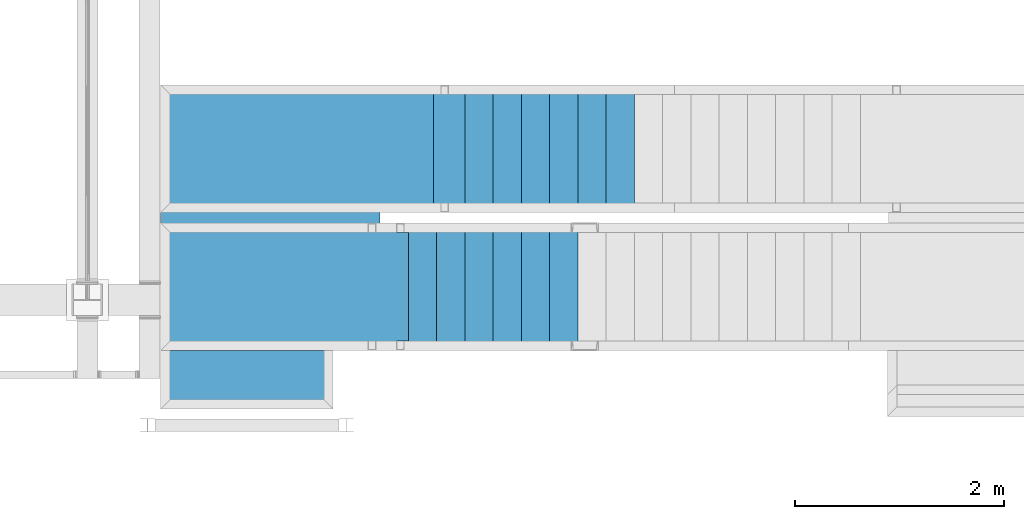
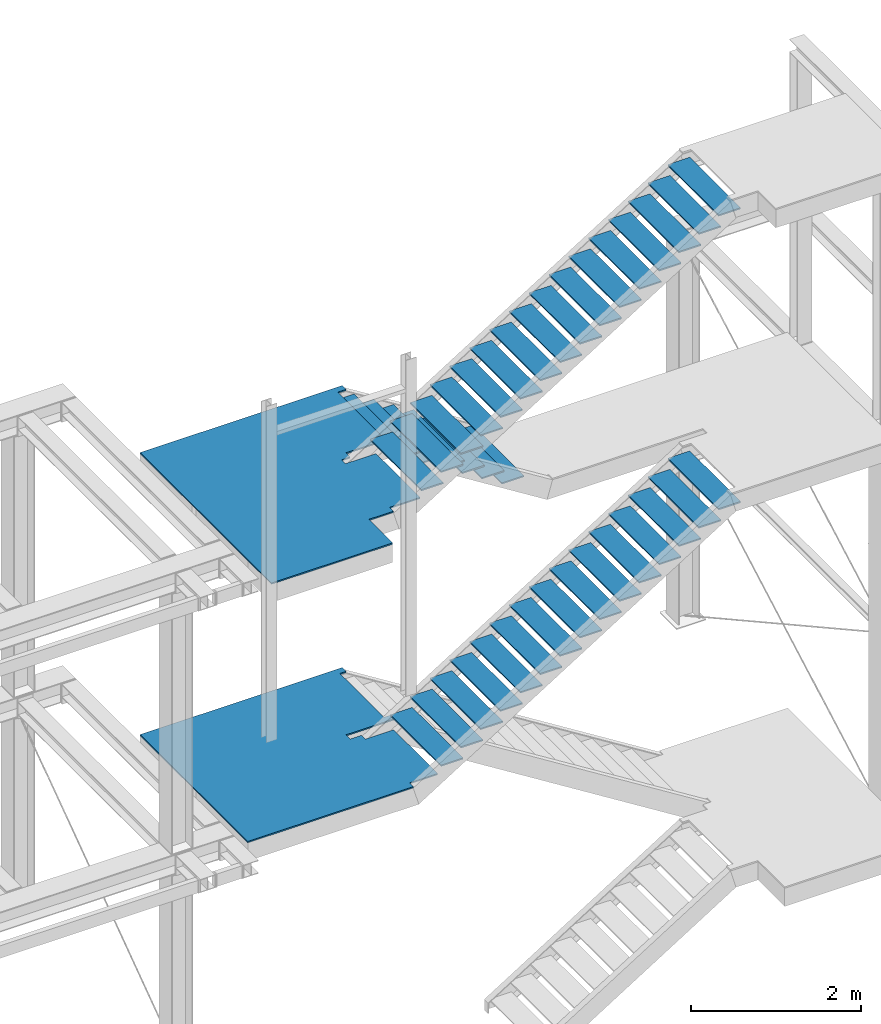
# One storey, part 22 of 24: 5 stairs.
"""IFC2X3 building model written with IfcOpenShell, lengths in metres."""

import ifcopenshell
import ifcopenshell.guid

model = None  # the IFC model being written
_history = None  # IfcOwnerHistory: only IFC2X3 demands one
_inside = {}  # id of a spatial element -> (the spatial element, [elements in it])
_under = {}  # id of a project, library or spatial element -> (it, [spatial elements below it])
_declared = {}  # id of a project -> (the project, [libraries it declares])
_typed = {}  # id of a type object -> (the type object, [elements of that type])
_made_of = {}  # id of a material, layer set ... -> (it, [elements and type objects made of it])


def new_model(schema):
    """Start an empty IFC model of exactly this schema.

    Asked for "IFC4X3", IfcOpenShell would pick the latest addendum, in which some entities
    have other attributes; the version numbers below select the first issue.
    IFC2X3 requires an IfcOwnerHistory on every rooted entity: one is made here for all.
    """
    global model, _history
    if schema == "IFC4X3":
        model = ifcopenshell.file(schema_version=(4, 3, 0, 0))
    else:
        model = ifcopenshell.file(schema=schema)
    _inside.clear()
    _under.clear()
    _declared.clear()
    _typed.clear()
    _made_of.clear()
    _history = None
    if model.schema == "IFC2X3":
        org = make("IfcOrganization", Name="unknown")
        user = make(
            "IfcPersonAndOrganization",
            ThePerson=make("IfcPerson", FamilyName="unknown"),
            TheOrganization=org,
        )
        app = make(
            "IfcApplication",
            ApplicationDeveloper=org,
            Version="unknown",
            ApplicationFullName="unknown",
            ApplicationIdentifier="unknown",
        )
        _history = make(
            "IfcOwnerHistory",
            OwningUser=user,
            OwningApplication=app,
            ChangeAction="ADDED",
            CreationDate=0,
        )
    return model


def make(cls, **values):
    """One entity of the class cls with the attributes given. An attribute that is None is left unset."""
    return model.create_entity(
        cls, **{name: value for name, value in values.items() if value is not None}
    )


def entity(cls, *values):
    """Any entity or typed value of the class cls, its attributes in the order of the schema. None: left unset."""
    e = model.create_entity(cls)
    for i, value in enumerate(values):
        if value is not None:
            e[i] = value
    return e


def rooted(cls, **values):
    """An entity with a GlobalId (a new one), such as an element, a storey or a relation."""
    return make(cls, GlobalId=ifcopenshell.guid.new(), OwnerHistory=_history, **values)


def si_unit(unit_type, name, prefix=None):
    """IfcSIUnit, for example si_unit("LENGTHUNIT", "METRE", prefix="MILLI")."""
    return make("IfcSIUnit", UnitType=unit_type, Prefix=prefix, Name=name)


def converted_unit(unit_type, name, factor, base, dimensions=None, offset=None):
    """IfcConversionBasedUnit, such as the inch: factor (a typed value) times the base unit."""
    return make(
        "IfcConversionBasedUnit"
        if offset is None
        else "IfcConversionBasedUnitWithOffset",
        ConversionOffset=offset,
        Dimensions=None
        if dimensions is None
        else entity("IfcDimensionalExponents", *dimensions),
        UnitType=unit_type,
        Name=name,
        ConversionFactor=make(
            "IfcMeasureWithUnit", ValueComponent=factor, UnitComponent=base
        ),
    )


def derived_unit(unit_type, elements):
    """IfcDerivedUnit: a product of units, each with its exponent."""
    return make(
        "IfcDerivedUnit",
        Elements=[
            make("IfcDerivedUnitElement", Unit=unit, Exponent=power)
            for unit, power in elements
        ],
        UnitType=unit_type,
    )


def assignment(units):
    """IfcUnitAssignment: the units of a project."""
    return None if units is None else make("IfcUnitAssignment", Units=units)


def point(xyz):
    """IfcCartesianPoint."""
    return None if xyz is None else make("IfcCartesianPoint", Coordinates=xyz)


def direction(xyz):
    """IfcDirection."""
    return None if xyz is None else make("IfcDirection", DirectionRatios=xyz)


def frame(location, z_axis=None, x_axis=None):
    """IfcAxis2Placement3D, a coordinate frame: its origin and axes. An axis left out is left unset."""
    return make(
        "IfcAxis2Placement3D",
        Location=point(location),
        Axis=direction(z_axis),
        RefDirection=direction(x_axis),
    )


def origin():
    """The frame at (0, 0, 0) with its axes left unset."""
    return frame((0.0, 0.0, 0.0))


def place(relative_to, where):
    """IfcLocalPlacement: puts the frame where relative to a parent placement (None: the world)."""
    return make(
        "IfcLocalPlacement", PlacementRelTo=relative_to, RelativePlacement=where
    )


def context(
    kind, dimensions, precision=None, world=None, true_north=None, identifier=None
):
    """IfcGeometricRepresentationContext, for example the 3D "Model" context."""
    return make(
        "IfcGeometricRepresentationContext",
        ContextIdentifier=identifier,
        ContextType=kind,
        CoordinateSpaceDimension=dimensions,
        Precision=precision,
        WorldCoordinateSystem=world,
        TrueNorth=true_north,
    )


def subcontext(parent, identifier, kind, view, scale=None):
    """IfcGeometricRepresentationSubContext, for example "Body" below "Model"."""
    return make(
        "IfcGeometricRepresentationSubContext",
        ContextIdentifier=identifier,
        ContextType=kind,
        ParentContext=parent,
        TargetScale=scale,
        TargetView=view,
    )


def project(units=None, contexts=None):
    """IfcProject with its units and contexts."""
    return rooted(
        "IfcProject",
        Name="project",
        RepresentationContexts=contexts,
        UnitsInContext=assignment(units),
    )


def spatial(cls, under=None, at=None, **own):
    """A site, building, storey or space (cls), placed at a placement, below another one or the project."""
    s = rooted(cls, ObjectPlacement=at, **own)
    if under is not None:
        _under.setdefault(under.id(), (under, []))[1].append(s)
    return s


def faces_of(points, faces, orient=None, outer=None):
    """IfcFace entities. A face is a list of loops; a loop is a list of indices into points, from 0.

    orient and outer hold one flag for each loop. By default every Orientation is true, the
    first loop of a face is its IfcFaceOuterBound and the others are IfcFaceBound.
    """
    made = []
    for i, loops in enumerate(faces):
        bounds = []
        for j, loop in enumerate(loops):
            is_outer = j == 0 if outer is None else outer[i][j]
            bounds.append(
                make(
                    "IfcFaceOuterBound" if is_outer else "IfcFaceBound",
                    Bound=make("IfcPolyLoop", Polygon=[points[k] for k in loop]),
                    Orientation=True if orient is None else orient[i][j],
                )
            )
        made.append(make("IfcFace", Bounds=bounds))
    return made


def faceted_brep(points, faces, orient=None, outer=None, voids=None):
    """IfcFacetedBrep: a solid bounded by flat faces; with voids (closed shells), ...WithVoids."""
    shared = [point(p) for p in points]
    hull = make("IfcClosedShell", CfsFaces=faces_of(shared, faces, orient, outer))
    if voids is None:
        return make("IfcFacetedBrep", Outer=hull)
    return make(
        "IfcFacetedBrepWithVoids",
        Outer=hull,
        Voids=[
            make(cls, CfsFaces=faces_of(shared, fs, o, b)) for cls, fs, o, b in voids
        ],
    )


def shape(context_of_items, identifier, shape_type, items):
    """IfcShapeRepresentation: the items that make up one representation, for example the "Body"."""
    return make(
        "IfcShapeRepresentation",
        ContextOfItems=context_of_items,
        RepresentationIdentifier=identifier,
        RepresentationType=shape_type,
        Items=items,
    )


def material(Name=None, Category=None):
    """IfcMaterial."""
    return make("IfcMaterial", Name=Name, Category=Category)


def made_of(thing, what):
    """Note that an element or type object is made of a material, layer set ...; save() writes the relation."""
    if what is not None:
        _made_of.setdefault(what.id(), (what, []))[1].append(thing)
    return thing


def element(
    cls,
    number,
    at=None,
    inside=None,
    cuts=None,
    type_object=None,
    material=None,
    context=None,
    identifier="Body",
    shape_type=None,
    held_by="IfcProductDefinitionShape",
    body=None,
    shapes=None,
    **own,
):
    """One element of the class cls, such as IfcWall. Its Tag is "e" and its number.

    at: its placement. inside: the storey or other place that contains it. cuts: it is an
    opening in that element (IfcRelVoidsElement). A single representation is given by context,
    identifier, shape_type and body (its items); several are given by shapes. held_by: the class
    of the entity that holds the representations. save() writes the other relations.
    """
    e = rooted(cls, Tag="e%d" % number, ObjectPlacement=at, **own)
    if body is not None:
        shapes = [shape(context, identifier, shape_type, body)]
    if shapes is not None:
        e.Representation = make(held_by, Representations=shapes)
    if inside is not None:
        _inside.setdefault(inside.id(), (inside, []))[1].append(e)
    if cuts is not None:
        rooted(
            "IfcRelVoidsElement", RelatingBuildingElement=cuts, RelatedOpeningElement=e
        )
    if type_object is not None:
        _typed.setdefault(type_object.id(), (type_object, []))[1].append(e)
    return made_of(e, material)


def aggregate(whole, parts):
    """IfcRelAggregates: a whole, such as a stair, and the parts it consists of."""
    return rooted("IfcRelAggregates", RelatingObject=whole, RelatedObjects=parts)


def save(model, path):
    """Write the relations noted so far, then the file.

    IfcRelAggregates (storeys below a building ...), IfcRelContainedInSpatialStructure (elements
    in a storey), IfcRelDefinesByType, IfcRelAssociatesMaterial and IfcRelDeclares: one each for
    every whole, place, type object, material and project.
    """
    for whole, parts in _under.values():
        aggregate(whole, parts)
    for where, things in _inside.values():
        rooted(
            "IfcRelContainedInSpatialStructure",
            RelatedElements=things,
            RelatingStructure=where,
        )
    for kind, things in _typed.values():
        rooted("IfcRelDefinesByType", RelatedObjects=things, RelatingType=kind)
    for what, things in _made_of.values():
        rooted("IfcRelAssociatesMaterial", RelatedObjects=things, RelatingMaterial=what)
    for by, libraries in _declared.values():
        rooted("IfcRelDeclares", RelatingContext=by, RelatedDefinitions=libraries)
    model.write(path)


model = new_model("IFC2X3")

# Units and contexts
model_context = context("Model", 3, precision=1e-05, world=origin())
body_context = subcontext(model_context, "Body", "Model", "MODEL_VIEW")
ifc_project = project(units=[si_unit("LENGTHUNIT", "METRE"), si_unit("AREAUNIT", "SQUARE_METRE"), si_unit("VOLUMEUNIT", "CUBIC_METRE"), si_unit("MASSUNIT", "GRAM", prefix="KILO"), converted_unit("PLANEANGLEUNIT", "DEGREE", entity("IfcPlaneAngleMeasure", 0.0174532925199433), si_unit("PLANEANGLEUNIT", "RADIAN"), dimensions=[0, 0, 0, 0, 0, 0, 0]), derived_unit("THERMALTRANSMITTANCEUNIT", [(si_unit("POWERUNIT", "WATT"), 1), (si_unit("THERMODYNAMICTEMPERATUREUNIT", "KELVIN"), -1), (si_unit("LENGTHUNIT", "METRE"), -2)]), derived_unit("VOLUMETRICFLOWRATEUNIT", [(si_unit("LENGTHUNIT", "METRE"), 3), (converted_unit("TIMEUNIT", "hour", entity("IfcTimeMeasure", 3600.0), si_unit("TIMEUNIT", "SECOND"), dimensions=[0, 0, 1, 0, 0, 0, 0]), -1), (si_unit("LENGTHUNIT", "METRE"), -1)])], contexts=[model_context])

# Site, building, storey
site_placement = place(None, origin())
site = spatial("IfcSite", under=ifc_project, at=site_placement, Name="TWP_Speiseverteilzentrum SBW VZ II", CompositionType="ELEMENT")
building_placement = place(site_placement, origin())
building = spatial("IfcBuilding", under=site, at=building_placement, Name="Speiseverteilzentrum SBW VZ II", CompositionType="ELEMENT")
storey_placement = place(building_placement, frame((0.0, 0.0, 0.6957)))
storey = spatial("IfcBuildingStorey", under=building, at=storey_placement, Name="EG_Technik_FFB", CompositionType="ELEMENT", Elevation=0.6957)

# Stairs
ifc_material_1 = material(Name="Stahl")
stair_1_placement = place(storey_placement, frame((60.7000017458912, 86.9899999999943, 3.71816338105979)))
element("IfcStair", 1, at=stair_1_placement, inside=storey, material=ifc_material_1, Name="Stahltreppe", ShapeType="NOTDEFINED", context=body_context, shape_type="Brep", body=[
    faceted_brep([(2.66870319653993, 2.44999999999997, 0.0), (2.75301749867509, 2.44999999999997, 0.0), (2.75301749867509, 2.53999999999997, 0.0), (0.0, 2.53999999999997, 0.0), (0.0, 0.0, 0.0), (2.25438889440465, 0.0, 0.0), (2.25438889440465, 0.0899999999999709, 0.0), (2.63870319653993, 0.0899999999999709, 0.0), (2.63870319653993, 1.12999999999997, 0.0), (2.25438889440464, 1.12999999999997, 0.0), (2.25438889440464, 1.21999999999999, 0.0), (2.09870319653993, 1.21999999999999, 0.0), (2.09870319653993, 1.31999999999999, 0.0), (2.75301749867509, 1.31999999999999, 0.0), (2.75301749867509, 1.40999999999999, 0.0), (2.66870319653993, 1.40999999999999, 0.0), (2.75301749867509, 2.44999999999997, 0.02), (2.66870319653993, 2.44999999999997, 0.02), (2.66870319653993, 1.40999999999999, 0.02), (2.75301749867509, 1.40999999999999, 0.02), (2.75301749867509, 1.31999999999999, 0.02), (2.09870319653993, 1.31999999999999, 0.02), (2.09870319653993, 1.21999999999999, 0.02), (2.25438889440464, 1.21999999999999, 0.02), (2.25438889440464, 1.12999999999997, 0.02), (2.63870319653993, 1.12999999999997, 0.02), (2.63870319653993, 0.0899999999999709, 0.02), (2.25438889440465, 0.0899999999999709, 0.02), (2.25438889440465, 0.0, 0.02), (0.0, 0.0, 0.02), (0.0, 2.53999999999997, 0.02), (2.75301749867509, 2.53999999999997, 0.02)], [[[0, 1, 2, 3, 4, 5, 6, 7, 8, 9, 10, 11, 12, 13, 14, 15]], [[16, 17, 18, 19, 20, 21, 22, 23, 24, 25, 26, 27, 28, 29, 30, 31]], [[1, 0, 17, 16]], [[2, 1, 16, 31]], [[3, 2, 31, 30]], [[4, 3, 30, 29]], [[5, 4, 29, 28]], [[6, 5, 28, 27]], [[7, 6, 27, 26]], [[8, 7, 26, 25]], [[9, 8, 25, 24]], [[10, 9, 24, 23]], [[11, 10, 23, 22]], [[12, 11, 22, 21]], [[13, 12, 21, 20]], [[14, 13, 20, 19]], [[15, 14, 19, 18]], [[0, 15, 18, 17]]], orient=[[False], [False], [False], [False], [False], [False], [False], [False], [False], [False], [False], [False], [False], [False], [False], [False], [False], [False]]),
])
ifc_material_2 = material(Name="Stahl")
stair_2_placement = place(storey_placement, frame((63.3087049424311, 88.3199999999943, 6.59442514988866)))
element("IfcStair", 2, at=stair_2_placement, inside=storey, material=ifc_material_2, Name="Stahltreppe", ShapeType="NOTDEFINED", context=body_context, shape_type="Brep", body=[
    faceted_brep([(0.0, 0.0, 1.01515121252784), (0.0, 1.2, 1.01515121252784), (0.0, 1.2, 1.03515121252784), (0.0, 0.0, 1.03515121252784), (0.300000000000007, 1.2, 1.01515121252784), (0.300000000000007, 1.2, 1.03515121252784), (0.300000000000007, 0.0, 1.01515121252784), (0.300000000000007, 0.0, 1.03515121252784)], [[[0, 1, 2, 3]], [[1, 4, 5, 2]], [[4, 6, 7, 5]], [[6, 0, 3, 7]], [[3, 2, 5, 7]], [[0, 6, 4, 1]]], orient=[[False], [False], [False], [False], [False], [False]]),
    faceted_brep([(0.27, 0.0, 0.845959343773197), (0.27, 1.2, 0.845959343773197), (0.27, 1.2, 0.865959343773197), (0.27, 0.0, 0.865959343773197), (0.57, 1.2, 0.845959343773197), (0.57, 1.2, 0.865959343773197), (0.57, 0.0, 0.845959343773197), (0.57, 0.0, 0.865959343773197)], [[[0, 1, 2, 3]], [[1, 4, 5, 2]], [[4, 6, 7, 5]], [[6, 0, 3, 7]], [[3, 2, 5, 7]], [[0, 6, 4, 1]]], orient=[[False], [False], [False], [False], [False], [False]]),
    faceted_brep([(0.539999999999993, 0.0, 0.676767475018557), (0.539999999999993, 1.2, 0.676767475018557), (0.539999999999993, 1.2, 0.696767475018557), (0.539999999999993, 0.0, 0.696767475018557), (0.839999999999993, 1.2, 0.676767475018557), (0.839999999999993, 1.2, 0.696767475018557), (0.839999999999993, 0.0, 0.676767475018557), (0.839999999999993, 0.0, 0.696767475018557)], [[[0, 1, 2, 3]], [[1, 4, 5, 2]], [[4, 6, 7, 5]], [[6, 0, 3, 7]], [[3, 2, 5, 7]], [[0, 6, 4, 1]]], orient=[[False], [False], [False], [False], [False], [False]]),
    faceted_brep([(0.809999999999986, 0.0, 0.507575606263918), (0.809999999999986, 1.2, 0.507575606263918), (0.809999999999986, 1.2, 0.527575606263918), (0.809999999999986, 0.0, 0.527575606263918), (1.10999999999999, 1.2, 0.507575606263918), (1.10999999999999, 1.2, 0.527575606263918), (1.10999999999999, 0.0, 0.507575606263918), (1.10999999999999, 0.0, 0.527575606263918)], [[[0, 1, 2, 3]], [[1, 4, 5, 2]], [[4, 6, 7, 5]], [[6, 0, 3, 7]], [[3, 2, 5, 7]], [[0, 6, 4, 1]]], orient=[[False], [False], [False], [False], [False], [False]]),
    faceted_brep([(1.08, 0.0, 0.33838373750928), (1.08, 1.2, 0.33838373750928), (1.08, 1.2, 0.35838373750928), (1.08, 0.0, 0.35838373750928), (1.38, 1.2, 0.33838373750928), (1.38, 1.2, 0.35838373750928), (1.38, 0.0, 0.33838373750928), (1.38, 0.0, 0.35838373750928)], [[[0, 1, 2, 3]], [[1, 4, 5, 2]], [[4, 6, 7, 5]], [[6, 0, 3, 7]], [[3, 2, 5, 7]], [[0, 6, 4, 1]]], orient=[[False], [False], [False], [False], [False], [False]]),
    faceted_brep([(1.34999999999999, 0.0, 0.169191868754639), (1.34999999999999, 1.2, 0.169191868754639), (1.34999999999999, 1.2, 0.189191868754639), (1.34999999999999, 0.0, 0.189191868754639), (1.64999999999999, 1.2, 0.169191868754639), (1.64999999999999, 1.2, 0.189191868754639), (1.64999999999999, 0.0, 0.169191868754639), (1.64999999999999, 0.0, 0.189191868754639)], [[[0, 1, 2, 3]], [[1, 4, 5, 2]], [[4, 6, 7, 5]], [[6, 0, 3, 7]], [[3, 2, 5, 7]], [[0, 6, 4, 1]]], orient=[[False], [False], [False], [False], [False], [False]]),
    faceted_brep([(1.61999999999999, 0.0, 0.0), (1.61999999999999, 1.2, 0.0), (1.61999999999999, 1.2, 0.02), (1.61999999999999, 0.0, 0.02), (1.91999999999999, 1.2, 0.0), (1.91999999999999, 1.2, 0.02), (1.91999999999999, 0.0, 0.0), (1.91999999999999, 0.0, 0.02)], [[[0, 1, 2, 3]], [[1, 4, 5, 2]], [[4, 6, 7, 5]], [[6, 0, 3, 7]], [[3, 2, 5, 7]], [[0, 6, 4, 1]]], orient=[[False], [False], [False], [False], [False], [False]]),
])
ifc_material_3 = material(Name="Stahl")
stair_3_placement = place(storey_placement, frame((60.7000017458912, 86.4299999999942, 7.77876823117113)))
element("IfcStair", 3, at=stair_3_placement, inside=storey, material=ifc_material_3, Name="Stahltreppe", ShapeType="NOTDEFINED", context=body_context, shape_type="Brep", body=[
    faceted_brep([(1.98438730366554, 0.560000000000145, 0.0), (1.98438730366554, 0.650000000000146, 0.0), (2.39870319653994, 0.650000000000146, 0.0), (2.39870319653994, 1.69000000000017, 0.0), (1.98438730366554, 1.69000000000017, 0.0), (1.98438730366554, 1.78000000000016, 0.0), (2.09870319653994, 1.78000000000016, 0.0), (2.09870319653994, 1.88000000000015, 0.0), (2.75301908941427, 1.88000000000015, 0.0), (2.75301908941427, 1.97000000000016, 0.0), (2.63870319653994, 1.97000000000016, 0.0), (2.63870319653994, 3.01000184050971, 0.0), (2.75301908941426, 3.01000184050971, 0.0), (2.75301908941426, 3.10000000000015, 0.0), (0.0, 3.10000000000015, 0.0), (0.0, 0.0, 0.0), (1.64999999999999, 0.0, 0.0), (1.64999999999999, 0.560000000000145, 0.0), (1.98438730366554, 0.650000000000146, 0.02), (1.98438730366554, 0.560000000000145, 0.02), (1.64999999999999, 0.560000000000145, 0.02), (1.64999999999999, 0.0, 0.02), (0.0, 0.0, 0.02), (0.0, 3.10000000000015, 0.02), (2.75301908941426, 3.10000000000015, 0.02), (2.75301908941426, 3.01000184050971, 0.02), (2.63870319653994, 3.01000184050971, 0.02), (2.63870319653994, 1.97000000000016, 0.02), (2.75301908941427, 1.97000000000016, 0.02), (2.75301908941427, 1.88000000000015, 0.02), (2.09870319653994, 1.88000000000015, 0.02), (2.09870319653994, 1.78000000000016, 0.02), (1.98438730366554, 1.78000000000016, 0.02), (1.98438730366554, 1.69000000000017, 0.02), (2.39870319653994, 1.69000000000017, 0.02), (2.39870319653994, 0.650000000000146, 0.02)], [[[0, 1, 2, 3, 4, 5, 6, 7, 8, 9, 10, 11, 12, 13, 14, 15, 16, 17]], [[18, 19, 20, 21, 22, 23, 24, 25, 26, 27, 28, 29, 30, 31, 32, 33, 34, 35]], [[1, 0, 19, 18]], [[2, 1, 18, 35]], [[3, 2, 35, 34]], [[4, 3, 34, 33]], [[5, 4, 33, 32]], [[6, 5, 32, 31]], [[7, 6, 31, 30]], [[8, 7, 30, 29]], [[9, 8, 29, 28]], [[10, 9, 28, 27]], [[11, 10, 27, 26]], [[12, 11, 26, 25]], [[13, 12, 25, 24]], [[14, 13, 24, 23]], [[15, 14, 23, 22]], [[16, 15, 22, 21]], [[17, 16, 21, 20]], [[0, 17, 20, 19]]], orient=[[False], [False], [False], [False], [False], [False], [False], [False], [False], [False], [False], [False], [False], [False], [False], [False], [False], [False], [False], [False]]),
])
ifc_material_4 = material(Name="Stahl")
stair_4_placement = place(storey_placement, frame((63.0687049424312, 86.9999999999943, 7.94796009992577)))
element("IfcStair", 4, at=stair_4_placement, inside=storey, material=ifc_material_4, Name="Stahltreppe", ShapeType="NOTDEFINED", context=body_context, shape_type="Brep", body=[
    faceted_brep([(4.35, 1.2, 2.53787803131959), (4.35, 0.0, 2.53787803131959), (4.35, 0.0, 2.55787803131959), (4.35, 1.2, 2.55787803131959), (4.05, 0.0, 2.53787803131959), (4.05, 0.0, 2.55787803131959), (4.05, 1.2, 2.53787803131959), (4.05, 1.2, 2.55787803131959)], [[[0, 1, 2, 3]], [[1, 4, 5, 2]], [[4, 6, 7, 5]], [[6, 0, 3, 7]], [[3, 2, 5, 7]], [[0, 6, 4, 1]]], orient=[[False], [False], [False], [False], [False], [False]]),
    faceted_brep([(4.08, 1.2, 2.36868616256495), (4.08, 0.0, 2.36868616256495), (4.08, 0.0, 2.38868616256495), (4.08, 1.2, 2.38868616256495), (3.78, 0.0, 2.36868616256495), (3.78, 0.0, 2.38868616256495), (3.78, 1.2, 2.36868616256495), (3.78, 1.2, 2.38868616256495)], [[[0, 1, 2, 3]], [[1, 4, 5, 2]], [[4, 6, 7, 5]], [[6, 0, 3, 7]], [[3, 2, 5, 7]], [[0, 6, 4, 1]]], orient=[[False], [False], [False], [False], [False], [False]]),
    faceted_brep([(3.81, 1.2, 2.19949429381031), (3.81, 0.0, 2.19949429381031), (3.81, 0.0, 2.21949429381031), (3.81, 1.2, 2.21949429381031), (3.51, 0.0, 2.19949429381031), (3.51, 0.0, 2.21949429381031), (3.51, 1.2, 2.19949429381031), (3.51, 1.2, 2.21949429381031)], [[[0, 1, 2, 3]], [[1, 4, 5, 2]], [[4, 6, 7, 5]], [[6, 0, 3, 7]], [[3, 2, 5, 7]], [[0, 6, 4, 1]]], orient=[[False], [False], [False], [False], [False], [False]]),
    faceted_brep([(3.53999999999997, 1.2, 2.03030242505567), (3.53999999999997, 0.0, 2.03030242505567), (3.53999999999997, 0.0, 2.05030242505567), (3.53999999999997, 1.2, 2.05030242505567), (3.23999999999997, 0.0, 2.03030242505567), (3.23999999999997, 0.0, 2.05030242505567), (3.23999999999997, 1.2, 2.03030242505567), (3.23999999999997, 1.2, 2.05030242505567)], [[[0, 1, 2, 3]], [[1, 4, 5, 2]], [[4, 6, 7, 5]], [[6, 0, 3, 7]], [[3, 2, 5, 7]], [[0, 6, 4, 1]]], orient=[[False], [False], [False], [False], [False], [False]]),
    faceted_brep([(3.27, 1.2, 1.86111055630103), (3.27, 0.0, 1.86111055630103), (3.27, 0.0, 1.88111055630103), (3.27, 1.2, 1.88111055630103), (2.97, 0.0, 1.86111055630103), (2.97, 0.0, 1.88111055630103), (2.97, 1.2, 1.86111055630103), (2.97, 1.2, 1.88111055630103)], [[[0, 1, 2, 3]], [[1, 4, 5, 2]], [[4, 6, 7, 5]], [[6, 0, 3, 7]], [[3, 2, 5, 7]], [[0, 6, 4, 1]]], orient=[[False], [False], [False], [False], [False], [False]]),
    faceted_brep([(3.0, 1.2, 1.69191868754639), (3.0, 0.0, 1.69191868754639), (3.0, 0.0, 1.71191868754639), (3.0, 1.2, 1.71191868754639), (2.7, 0.0, 1.69191868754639), (2.7, 0.0, 1.71191868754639), (2.7, 1.2, 1.69191868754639), (2.7, 1.2, 1.71191868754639)], [[[0, 1, 2, 3]], [[1, 4, 5, 2]], [[4, 6, 7, 5]], [[6, 0, 3, 7]], [[3, 2, 5, 7]], [[0, 6, 4, 1]]], orient=[[False], [False], [False], [False], [False], [False]]),
    faceted_brep([(2.73, 1.2, 1.52272681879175), (2.73, 0.0, 1.52272681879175), (2.73, 0.0, 1.54272681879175), (2.73, 1.2, 1.54272681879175), (2.42999999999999, 0.0, 1.52272681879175), (2.42999999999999, 0.0, 1.54272681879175), (2.42999999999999, 1.2, 1.52272681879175), (2.42999999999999, 1.2, 1.54272681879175)], [[[0, 1, 2, 3]], [[1, 4, 5, 2]], [[4, 6, 7, 5]], [[6, 0, 3, 7]], [[3, 2, 5, 7]], [[0, 6, 4, 1]]], orient=[[False], [False], [False], [False], [False], [False]]),
    faceted_brep([(2.45999999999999, 1.2, 1.35353495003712), (2.45999999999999, 0.0, 1.35353495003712), (2.45999999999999, 0.0, 1.37353495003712), (2.45999999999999, 1.2, 1.37353495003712), (2.15999999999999, 0.0, 1.35353495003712), (2.15999999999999, 0.0, 1.37353495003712), (2.15999999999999, 1.2, 1.35353495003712), (2.15999999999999, 1.2, 1.37353495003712)], [[[0, 1, 2, 3]], [[1, 4, 5, 2]], [[4, 6, 7, 5]], [[6, 0, 3, 7]], [[3, 2, 5, 7]], [[0, 6, 4, 1]]], orient=[[False], [False], [False], [False], [False], [False]]),
    faceted_brep([(2.19000000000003, 1.2, 1.18434308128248), (2.19000000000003, 0.0, 1.18434308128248), (2.19000000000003, 0.0, 1.20434308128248), (2.19000000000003, 1.2, 1.20434308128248), (1.89000000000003, 0.0, 1.18434308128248), (1.89000000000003, 0.0, 1.20434308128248), (1.89000000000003, 1.2, 1.18434308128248), (1.89000000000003, 1.2, 1.20434308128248)], [[[0, 1, 2, 3]], [[1, 4, 5, 2]], [[4, 6, 7, 5]], [[6, 0, 3, 7]], [[3, 2, 5, 7]], [[0, 6, 4, 1]]], orient=[[False], [False], [False], [False], [False], [False]]),
    faceted_brep([(1.91999999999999, 1.2, 1.01515121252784), (1.91999999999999, 0.0, 1.01515121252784), (1.91999999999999, 0.0, 1.03515121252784), (1.91999999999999, 1.2, 1.03515121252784), (1.61999999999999, 0.0, 1.01515121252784), (1.61999999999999, 0.0, 1.03515121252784), (1.61999999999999, 1.2, 1.01515121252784), (1.61999999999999, 1.2, 1.03515121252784)], [[[0, 1, 2, 3]], [[1, 4, 5, 2]], [[4, 6, 7, 5]], [[6, 0, 3, 7]], [[3, 2, 5, 7]], [[0, 6, 4, 1]]], orient=[[False], [False], [False], [False], [False], [False]]),
    faceted_brep([(1.65, 1.2, 0.845959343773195), (1.65, 0.0, 0.845959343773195), (1.65, 0.0, 0.865959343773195), (1.65, 1.2, 0.865959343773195), (1.35, 0.0, 0.845959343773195), (1.35, 0.0, 0.865959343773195), (1.35, 1.2, 0.845959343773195), (1.35, 1.2, 0.865959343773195)], [[[0, 1, 2, 3]], [[1, 4, 5, 2]], [[4, 6, 7, 5]], [[6, 0, 3, 7]], [[3, 2, 5, 7]], [[0, 6, 4, 1]]], orient=[[False], [False], [False], [False], [False], [False]]),
    faceted_brep([(1.37999999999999, 1.2, 0.676767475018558), (1.37999999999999, 0.0, 0.676767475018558), (1.37999999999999, 0.0, 0.696767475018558), (1.37999999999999, 1.2, 0.696767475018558), (1.07999999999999, 0.0, 0.676767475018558), (1.07999999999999, 0.0, 0.696767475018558), (1.07999999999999, 1.2, 0.676767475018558), (1.07999999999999, 1.2, 0.696767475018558)], [[[0, 1, 2, 3]], [[1, 4, 5, 2]], [[4, 6, 7, 5]], [[6, 0, 3, 7]], [[3, 2, 5, 7]], [[0, 6, 4, 1]]], orient=[[False], [False], [False], [False], [False], [False]]),
    faceted_brep([(1.10999999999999, 1.2, 0.507575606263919), (1.10999999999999, 0.0, 0.507575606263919), (1.10999999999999, 0.0, 0.527575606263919), (1.10999999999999, 1.2, 0.527575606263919), (0.809999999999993, 0.0, 0.507575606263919), (0.809999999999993, 0.0, 0.527575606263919), (0.809999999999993, 1.2, 0.507575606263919), (0.809999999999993, 1.2, 0.527575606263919)], [[[0, 1, 2, 3]], [[1, 4, 5, 2]], [[4, 6, 7, 5]], [[6, 0, 3, 7]], [[3, 2, 5, 7]], [[0, 6, 4, 1]]], orient=[[False], [False], [False], [False], [False], [False]]),
    faceted_brep([(0.839999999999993, 1.2, 0.338383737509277), (0.839999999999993, 0.0, 0.338383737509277), (0.839999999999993, 0.0, 0.358383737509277), (0.839999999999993, 1.2, 0.358383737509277), (0.539999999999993, 0.0, 0.338383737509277), (0.539999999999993, 0.0, 0.358383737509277), (0.539999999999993, 1.2, 0.338383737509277), (0.539999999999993, 1.2, 0.358383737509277)], [[[0, 1, 2, 3]], [[1, 4, 5, 2]], [[4, 6, 7, 5]], [[6, 0, 3, 7]], [[3, 2, 5, 7]], [[0, 6, 4, 1]]], orient=[[False], [False], [False], [False], [False], [False]]),
    faceted_brep([(0.57, 1.2, 0.169191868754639), (0.57, 0.0, 0.169191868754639), (0.57, 0.0, 0.189191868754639), (0.57, 1.2, 0.189191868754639), (0.27, 0.0, 0.169191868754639), (0.27, 0.0, 0.189191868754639), (0.27, 1.2, 0.169191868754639), (0.27, 1.2, 0.189191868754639)], [[[0, 1, 2, 3]], [[1, 4, 5, 2]], [[4, 6, 7, 5]], [[6, 0, 3, 7]], [[3, 2, 5, 7]], [[0, 6, 4, 1]]], orient=[[False], [False], [False], [False], [False], [False]]),
    faceted_brep([(0.299999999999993, 1.2, 0.0), (0.299999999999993, 0.0, 0.0), (0.299999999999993, 0.0, 0.02), (0.299999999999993, 1.2, 0.02), (0.0, 0.0, 0.0), (0.0, 0.0, 0.02), (0.0, 1.2, 0.0), (0.0, 1.2, 0.02)], [[[0, 1, 2, 3]], [[1, 4, 5, 2]], [[4, 6, 7, 5]], [[6, 0, 3, 7]], [[3, 2, 5, 7]], [[0, 6, 4, 1]]], orient=[[False], [False], [False], [False], [False], [False]]),
])
ifc_material_5 = material(Name="Stahl")
stair_5_placement = place(storey_placement, frame((63.3387049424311, 86.9999999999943, 3.88735524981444)))
element("IfcStair", 5, at=stair_5_placement, inside=storey, material=ifc_material_5, Name="Stahltreppe", ShapeType="NOTDEFINED", context=body_context, shape_type="Brep", body=[
    faceted_brep([(4.08000000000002, 1.2, 2.36868616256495), (4.08000000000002, 0.0, 2.36868616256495), (4.08000000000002, 0.0, 2.38868616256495), (4.08000000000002, 1.2, 2.38868616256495), (3.78000000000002, 0.0, 2.36868616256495), (3.78000000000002, 0.0, 2.38868616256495), (3.78000000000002, 1.2, 2.36868616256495), (3.78000000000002, 1.2, 2.38868616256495)], [[[0, 1, 2, 3]], [[1, 4, 5, 2]], [[4, 6, 7, 5]], [[6, 0, 3, 7]], [[3, 2, 5, 7]], [[0, 6, 4, 1]]], orient=[[False], [False], [False], [False], [False], [False]]),
    faceted_brep([(3.81000000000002, 1.2, 2.19949429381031), (3.81000000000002, 0.0, 2.19949429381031), (3.81000000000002, 0.0, 2.21949429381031), (3.81000000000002, 1.2, 2.21949429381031), (3.51000000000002, 0.0, 2.19949429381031), (3.51000000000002, 0.0, 2.21949429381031), (3.51000000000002, 1.2, 2.19949429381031), (3.51000000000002, 1.2, 2.21949429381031)], [[[0, 1, 2, 3]], [[1, 4, 5, 2]], [[4, 6, 7, 5]], [[6, 0, 3, 7]], [[3, 2, 5, 7]], [[0, 6, 4, 1]]], orient=[[False], [False], [False], [False], [False], [False]]),
    faceted_brep([(3.54000000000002, 1.2, 2.03030242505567), (3.54000000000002, 0.0, 2.03030242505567), (3.54000000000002, 0.0, 2.05030242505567), (3.54000000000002, 1.2, 2.05030242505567), (3.24000000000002, 0.0, 2.03030242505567), (3.24000000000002, 0.0, 2.05030242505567), (3.24000000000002, 1.2, 2.03030242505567), (3.24000000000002, 1.2, 2.05030242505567)], [[[0, 1, 2, 3]], [[1, 4, 5, 2]], [[4, 6, 7, 5]], [[6, 0, 3, 7]], [[3, 2, 5, 7]], [[0, 6, 4, 1]]], orient=[[False], [False], [False], [False], [False], [False]]),
    faceted_brep([(3.26999999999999, 1.2, 1.86111055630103), (3.26999999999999, 0.0, 1.86111055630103), (3.26999999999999, 0.0, 1.88111055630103), (3.26999999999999, 1.2, 1.88111055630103), (2.96999999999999, 0.0, 1.86111055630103), (2.96999999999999, 0.0, 1.88111055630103), (2.96999999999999, 1.2, 1.86111055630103), (2.96999999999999, 1.2, 1.88111055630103)], [[[0, 1, 2, 3]], [[1, 4, 5, 2]], [[4, 6, 7, 5]], [[6, 0, 3, 7]], [[3, 2, 5, 7]], [[0, 6, 4, 1]]], orient=[[False], [False], [False], [False], [False], [False]]),
    faceted_brep([(3.00000000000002, 1.2, 1.69191868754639), (3.00000000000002, 0.0, 1.69191868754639), (3.00000000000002, 0.0, 1.71191868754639), (3.00000000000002, 1.2, 1.71191868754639), (2.70000000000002, 0.0, 1.69191868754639), (2.70000000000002, 0.0, 1.71191868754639), (2.70000000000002, 1.2, 1.69191868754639), (2.70000000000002, 1.2, 1.71191868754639)], [[[0, 1, 2, 3]], [[1, 4, 5, 2]], [[4, 6, 7, 5]], [[6, 0, 3, 7]], [[3, 2, 5, 7]], [[0, 6, 4, 1]]], orient=[[False], [False], [False], [False], [False], [False]]),
    faceted_brep([(2.73000000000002, 1.2, 1.52272681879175), (2.73000000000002, 0.0, 1.52272681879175), (2.73000000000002, 0.0, 1.54272681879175), (2.73000000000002, 1.2, 1.54272681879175), (2.43000000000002, 0.0, 1.52272681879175), (2.43000000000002, 0.0, 1.54272681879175), (2.43000000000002, 1.2, 1.52272681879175), (2.43000000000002, 1.2, 1.54272681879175)], [[[0, 1, 2, 3]], [[1, 4, 5, 2]], [[4, 6, 7, 5]], [[6, 0, 3, 7]], [[3, 2, 5, 7]], [[0, 6, 4, 1]]], orient=[[False], [False], [False], [False], [False], [False]]),
    faceted_brep([(2.45999999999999, 1.2, 1.35353495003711), (2.45999999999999, 0.0, 1.35353495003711), (2.45999999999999, 0.0, 1.37353495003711), (2.45999999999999, 1.2, 1.37353495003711), (2.15999999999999, 0.0, 1.35353495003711), (2.15999999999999, 0.0, 1.37353495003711), (2.15999999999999, 1.2, 1.35353495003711), (2.15999999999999, 1.2, 1.37353495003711)], [[[0, 1, 2, 3]], [[1, 4, 5, 2]], [[4, 6, 7, 5]], [[6, 0, 3, 7]], [[3, 2, 5, 7]], [[0, 6, 4, 1]]], orient=[[False], [False], [False], [False], [False], [False]]),
    faceted_brep([(2.19000000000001, 1.2, 1.18434308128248), (2.19000000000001, 0.0, 1.18434308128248), (2.19000000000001, 0.0, 1.20434308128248), (2.19000000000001, 1.2, 1.20434308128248), (1.89000000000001, 0.0, 1.18434308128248), (1.89000000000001, 0.0, 1.20434308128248), (1.89000000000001, 1.2, 1.18434308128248), (1.89000000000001, 1.2, 1.20434308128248)], [[[0, 1, 2, 3]], [[1, 4, 5, 2]], [[4, 6, 7, 5]], [[6, 0, 3, 7]], [[3, 2, 5, 7]], [[0, 6, 4, 1]]], orient=[[False], [False], [False], [False], [False], [False]]),
    faceted_brep([(1.92, 1.2, 1.01515121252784), (1.92, 0.0, 1.01515121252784), (1.92, 0.0, 1.03515121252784), (1.92, 1.2, 1.03515121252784), (1.62, 0.0, 1.01515121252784), (1.62, 0.0, 1.03515121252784), (1.62, 1.2, 1.01515121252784), (1.62, 1.2, 1.03515121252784)], [[[0, 1, 2, 3]], [[1, 4, 5, 2]], [[4, 6, 7, 5]], [[6, 0, 3, 7]], [[3, 2, 5, 7]], [[0, 6, 4, 1]]], orient=[[False], [False], [False], [False], [False], [False]]),
    faceted_brep([(1.64999999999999, 1.2, 0.845959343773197), (1.64999999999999, 0.0, 0.845959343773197), (1.64999999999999, 0.0, 0.865959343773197), (1.64999999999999, 1.2, 0.865959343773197), (1.34999999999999, 0.0, 0.845959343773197), (1.34999999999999, 0.0, 0.865959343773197), (1.34999999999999, 1.2, 0.845959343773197), (1.34999999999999, 1.2, 0.865959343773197)], [[[0, 1, 2, 3]], [[1, 4, 5, 2]], [[4, 6, 7, 5]], [[6, 0, 3, 7]], [[3, 2, 5, 7]], [[0, 6, 4, 1]]], orient=[[False], [False], [False], [False], [False], [False]]),
    faceted_brep([(1.37999999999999, 1.2, 0.676767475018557), (1.37999999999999, 0.0, 0.676767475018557), (1.37999999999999, 0.0, 0.696767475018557), (1.37999999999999, 1.2, 0.696767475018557), (1.07999999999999, 0.0, 0.676767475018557), (1.07999999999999, 0.0, 0.696767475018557), (1.07999999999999, 1.2, 0.676767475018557), (1.07999999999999, 1.2, 0.696767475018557)], [[[0, 1, 2, 3]], [[1, 4, 5, 2]], [[4, 6, 7, 5]], [[6, 0, 3, 7]], [[3, 2, 5, 7]], [[0, 6, 4, 1]]], orient=[[False], [False], [False], [False], [False], [False]]),
    faceted_brep([(1.11, 1.2, 0.507575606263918), (1.11, 0.0, 0.507575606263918), (1.11, 0.0, 0.527575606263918), (1.11, 1.2, 0.527575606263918), (0.81, 0.0, 0.507575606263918), (0.81, 0.0, 0.527575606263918), (0.81, 1.2, 0.507575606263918), (0.81, 1.2, 0.527575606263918)], [[[0, 1, 2, 3]], [[1, 4, 5, 2]], [[4, 6, 7, 5]], [[6, 0, 3, 7]], [[3, 2, 5, 7]], [[0, 6, 4, 1]]], orient=[[False], [False], [False], [False], [False], [False]]),
    faceted_brep([(0.840000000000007, 1.2, 0.338383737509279), (0.840000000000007, 0.0, 0.338383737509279), (0.840000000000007, 0.0, 0.358383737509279), (0.840000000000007, 1.2, 0.358383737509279), (0.540000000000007, 0.0, 0.338383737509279), (0.540000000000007, 0.0, 0.358383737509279), (0.540000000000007, 1.2, 0.338383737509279), (0.540000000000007, 1.2, 0.358383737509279)], [[[0, 1, 2, 3]], [[1, 4, 5, 2]], [[4, 6, 7, 5]], [[6, 0, 3, 7]], [[3, 2, 5, 7]], [[0, 6, 4, 1]]], orient=[[False], [False], [False], [False], [False], [False]]),
    faceted_brep([(0.569999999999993, 1.2, 0.16919186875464), (0.569999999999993, 0.0, 0.16919186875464), (0.569999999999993, 0.0, 0.18919186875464), (0.569999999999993, 1.2, 0.18919186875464), (0.269999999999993, 0.0, 0.16919186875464), (0.269999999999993, 0.0, 0.18919186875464), (0.269999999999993, 1.2, 0.16919186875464), (0.269999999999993, 1.2, 0.18919186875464)], [[[0, 1, 2, 3]], [[1, 4, 5, 2]], [[4, 6, 7, 5]], [[6, 0, 3, 7]], [[3, 2, 5, 7]], [[0, 6, 4, 1]]], orient=[[False], [False], [False], [False], [False], [False]]),
    faceted_brep([(0.3, 1.2, 0.0), (0.3, 0.0, 0.0), (0.3, 0.0, 0.02), (0.3, 1.2, 0.02), (0.0, 0.0, 0.0), (0.0, 0.0, 0.02), (0.0, 1.2, 0.0), (0.0, 1.2, 0.02)], [[[0, 1, 2, 3]], [[1, 4, 5, 2]], [[4, 6, 7, 5]], [[6, 0, 3, 7]], [[3, 2, 5, 7]], [[0, 6, 4, 1]]], orient=[[False], [False], [False], [False], [False], [False]]),
])

save(model, "model.ifc")
